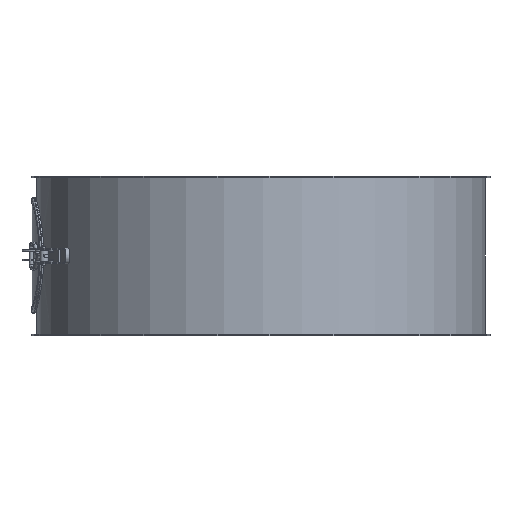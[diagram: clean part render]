
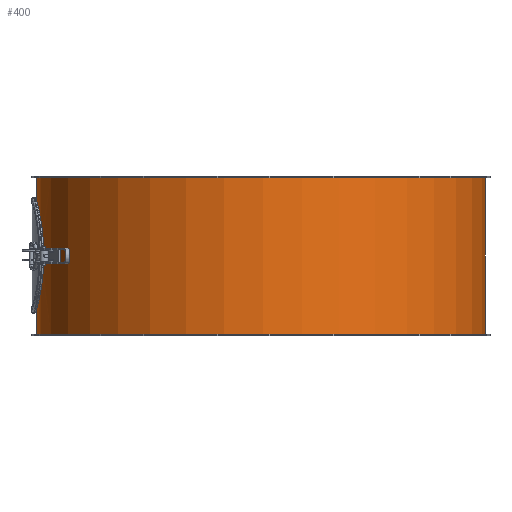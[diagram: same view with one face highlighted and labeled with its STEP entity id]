
A CAD part, front view. The second image highlights one B-rep face of the part: STEP entity #400.
In plain terms, the highlighted cylindrical face has radius 280.5 mm (diameter 561 mm), a full revolution.
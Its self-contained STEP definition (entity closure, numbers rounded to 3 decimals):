
#143=CARTESIAN_POINT('',(280.5,0.,198.0));
#144=VERTEX_POINT('',#143);
#145=CARTESIAN_POINT('',(0.0,0.0,198.0));
#146=DIRECTION('',(0.0,0.0,-1.0));
#147=DIRECTION('',(-1.0,0.0,0.0));
#148=AXIS2_PLACEMENT_3D('',#145,#146,#147);
#149=CIRCLE('',#148,280.5);
#150=EDGE_CURVE('',#144,#144,#149,.T.);
#191=CARTESIAN_POINT('',(-280.5,0.,2.0));
#192=VERTEX_POINT('',#191);
#193=CARTESIAN_POINT('',(0.0,0.0,2.0));
#194=DIRECTION('',(0.0,0.0,1.0));
#195=DIRECTION('',(-1.0,0.0,0.0));
#196=AXIS2_PLACEMENT_3D('',#193,#194,#195);
#197=CIRCLE('',#196,280.5);
#198=EDGE_CURVE('',#192,#192,#197,.T.);
#281=CARTESIAN_POINT('',(-274.543,-57.5,100.0));
#282=VERTEX_POINT('',#281);
#283=CARTESIAN_POINT('',(-274.543,-57.5,100.0));
#284=CARTESIAN_POINT('',(-274.543,-57.5,96.379));
#285=CARTESIAN_POINT('',(-274.617,-57.152,92.638));
#286=CARTESIAN_POINT('',(-274.917,-55.692,85.202));
#287=CARTESIAN_POINT('',(-275.143,-54.58,81.507));
#288=CARTESIAN_POINT('',(-275.709,-51.643,74.427));
#289=CARTESIAN_POINT('',(-276.049,-49.815,71.035));
#290=CARTESIAN_POINT('',(-276.777,-45.597,64.766));
#291=CARTESIAN_POINT('',(-277.164,-43.206,61.888));
#292=CARTESIAN_POINT('',(-277.911,-38.112,56.795));
#293=CARTESIAN_POINT('',(-278.296,-35.234,54.403));
#294=CARTESIAN_POINT('',(-279.018,-28.965,50.185));
#295=CARTESIAN_POINT('',(-279.354,-25.573,48.357));
#296=CARTESIAN_POINT('',(-279.912,-18.493,45.42));
#297=CARTESIAN_POINT('',(-280.134,-14.798,44.308));
#298=CARTESIAN_POINT('',(-280.428,-7.362,42.848));
#299=CARTESIAN_POINT('',(-280.5,-3.621,42.5));
#300=CARTESIAN_POINT('',(-280.5,3.621,42.5));
#301=CARTESIAN_POINT('',(-280.428,7.362,42.848));
#302=CARTESIAN_POINT('',(-280.134,14.798,44.308));
#303=CARTESIAN_POINT('',(-279.912,18.493,45.42));
#304=CARTESIAN_POINT('',(-279.354,25.573,48.357));
#305=CARTESIAN_POINT('',(-279.018,28.965,50.185));
#306=CARTESIAN_POINT('',(-278.296,35.234,54.403));
#307=CARTESIAN_POINT('',(-277.911,38.112,56.795));
#308=CARTESIAN_POINT('',(-277.164,43.206,61.888));
#309=CARTESIAN_POINT('',(-276.777,45.597,64.766));
#310=CARTESIAN_POINT('',(-276.049,49.815,71.035));
#311=CARTESIAN_POINT('',(-275.709,51.643,74.427));
#312=CARTESIAN_POINT('',(-275.143,54.58,81.507));
#313=CARTESIAN_POINT('',(-274.917,55.692,85.202));
#314=CARTESIAN_POINT('',(-274.617,57.152,92.638));
#315=CARTESIAN_POINT('',(-274.543,57.5,96.379));
#316=CARTESIAN_POINT('',(-274.543,57.5,103.621));
#317=CARTESIAN_POINT('',(-274.617,57.152,107.362));
#318=CARTESIAN_POINT('',(-274.917,55.692,114.798));
#319=CARTESIAN_POINT('',(-275.143,54.58,118.493));
#320=CARTESIAN_POINT('',(-275.709,51.643,125.573));
#321=CARTESIAN_POINT('',(-276.049,49.815,128.965));
#322=CARTESIAN_POINT('',(-276.777,45.597,135.234));
#323=CARTESIAN_POINT('',(-277.164,43.206,138.112));
#324=CARTESIAN_POINT('',(-277.911,38.112,143.205));
#325=CARTESIAN_POINT('',(-278.296,35.234,145.597));
#326=CARTESIAN_POINT('',(-279.018,28.965,149.815));
#327=CARTESIAN_POINT('',(-279.354,25.573,151.643));
#328=CARTESIAN_POINT('',(-279.912,18.493,154.58));
#329=CARTESIAN_POINT('',(-280.134,14.798,155.692));
#330=CARTESIAN_POINT('',(-280.428,7.362,157.152));
#331=CARTESIAN_POINT('',(-280.5,3.621,157.5));
#332=CARTESIAN_POINT('',(-280.5,-3.621,157.5));
#333=CARTESIAN_POINT('',(-280.428,-7.362,157.152));
#334=CARTESIAN_POINT('',(-280.134,-14.798,155.692));
#335=CARTESIAN_POINT('',(-279.912,-18.493,154.58));
#336=CARTESIAN_POINT('',(-279.354,-25.573,151.643));
#337=CARTESIAN_POINT('',(-279.018,-28.965,149.815));
#338=CARTESIAN_POINT('',(-278.296,-35.234,145.597));
#339=CARTESIAN_POINT('',(-277.911,-38.112,143.205));
#340=CARTESIAN_POINT('',(-277.164,-43.206,138.112));
#341=CARTESIAN_POINT('',(-276.777,-45.597,135.234));
#342=CARTESIAN_POINT('',(-276.049,-49.815,128.965));
#343=CARTESIAN_POINT('',(-275.709,-51.643,125.573));
#344=CARTESIAN_POINT('',(-275.143,-54.58,118.493));
#345=CARTESIAN_POINT('',(-274.917,-55.692,114.798));
#346=CARTESIAN_POINT('',(-274.617,-57.152,107.362));
#347=CARTESIAN_POINT('',(-274.543,-57.5,103.621));
#348=CARTESIAN_POINT('',(-274.543,-57.5,100.0));
#349=B_SPLINE_CURVE_WITH_KNOTS('',3,(#283,#284,#285,#286,#287,#288,#289,#290,#291,#292,#293,#294,#295,#296,#297,#298,#299,#300,#301,#302,#303,#304,#305,#306,#307,#308,#309,#310,#311,#312,#313,#314,#315,#316,#317,#318,#319,#320,#321,#322,#323,#324,#325,#326,#327,#328,#329,#330,#331,#332,#333,#334,#335,#336,#337,#338,#339,#340,#341,#342,#343,#344,#345,#346,#347,#348),.UNSPECIFIED.,.T.,.U.,(4,2,2,2,2,2,2,2,2,2,2,2,2,2,2,2,2,2,2,2,2,2,2,2,2,2,2,2,2,2,2,2,4),(0.0,1.086,2.173,3.259,4.345,5.432,6.518,7.604,8.69,9.777,10.863,11.949,13.035,14.122,15.208,16.294,17.381,18.467,19.553,20.64,21.726,22.812,23.899,24.985,26.071,27.157,28.244,29.33,30.416,31.502,32.589,33.675,34.761),.UNSPECIFIED.);
#350=EDGE_CURVE('',#282,#282,#349,.T.);
#386=CARTESIAN_POINT('',(0.0,0.0,0.0));
#387=DIRECTION('',(0.0,0.0,1.0));
#388=DIRECTION('',(-1.0,0.0,0.0));
#389=AXIS2_PLACEMENT_3D('',#386,#387,#388);
#390=CYLINDRICAL_SURFACE('',#389,280.5);
#391=ORIENTED_EDGE('',*,*,#150,.T.);
#392=EDGE_LOOP('',(#391));
#393=FACE_OUTER_BOUND('',#392,.T.);
#394=ORIENTED_EDGE('',*,*,#198,.T.);
#395=EDGE_LOOP('',(#394));
#396=FACE_BOUND('',#395,.T.);
#397=ORIENTED_EDGE('',*,*,#350,.T.);
#398=EDGE_LOOP('',(#397));
#399=FACE_BOUND('',#398,.T.);
#400=ADVANCED_FACE('',(#393,#396,#399),#390,.T.);
